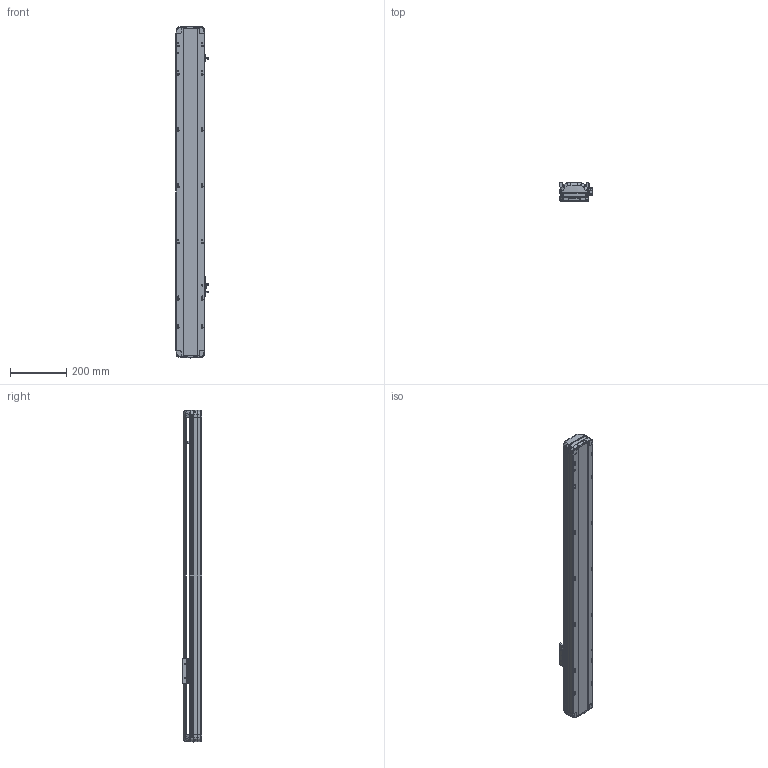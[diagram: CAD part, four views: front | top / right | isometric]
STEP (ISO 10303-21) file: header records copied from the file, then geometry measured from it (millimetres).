
FILE_DESCRIPTION (( 'STEP AP214' ), '1' );
FILE_NAME ('RTH10-XX-800-B-M10-C4.STEP', '2025-10-25T05:16:23', ( 'Microsoft' ), ( 'Microsoft' ), 'SwSTEP 2.0', 'SolidWorks 2018', '' );
FILE_SCHEMA (( 'AUTOMOTIVE_DESIGN' ));
Length unit declared in the file: millimetre
Products named in the file (7): RTH10-XX-800-B-M10-C4; N_RTH12-B-007P-奻裔^RTH10-XX-XX-B-M10-C4; N_OMRON EE-SX672 传感器^RTH10-XX-XX-B-M10-C4; N_RTH12-B-011P-臏倰第菁釱^RTH10-XX-XX-B-M10-C4; N_RTH12-GY-001P^RTH10-XX-XX-B-M10-C4; N_RTH12-GY-004-賑釱^RTH10-XX-XX-B-M10-C4; N_RTH13-L-012覜茼え俋离^RTH10-XX-XX-B-M10-C4
Assembly tree (9 placements, depth 2):
  RTH10-XX-800-B-M10-C4
    N_RTH12-B-011P-臏倰第菁釱^RTH10-XX-XX-B-M10-C4
    N_RTH13-L-012覜茼え俋离^RTH10-XX-XX-B-M10-C4
    N_OMRON EE-SX672 传感器^RTH10-XX-XX-B-M10-C4  x3
    N_RTH12-B-007P-奻裔^RTH10-XX-XX-B-M10-C4
    N_RTH12-GY-004-賑釱^RTH10-XX-XX-B-M10-C4
    N_RTH12-GY-001P^RTH10-XX-XX-B-M10-C4  x2
Bounding box: 116.5 x 70 x 1179.61 mm (x, y, z)
Volume: 4418808.9 mm3; surface area: 708722.5 mm2
Topology: 7 solids, 11 shells, 2220 faces, 6232 edges, 4080 vertices
Faces by surface type: plane 1057, bspline 712, cylinder 431, cone 16, torus 4
Entity records: 50348 total; most frequent: CARTESIAN_POINT 21798, ORIENTED_EDGE 6592, DIRECTION 4660, EDGE_CURVE 3302, VERTEX_POINT 2167, VECTOR 1694, LINE 1694, AXIS2_PLACEMENT_3D 1483
